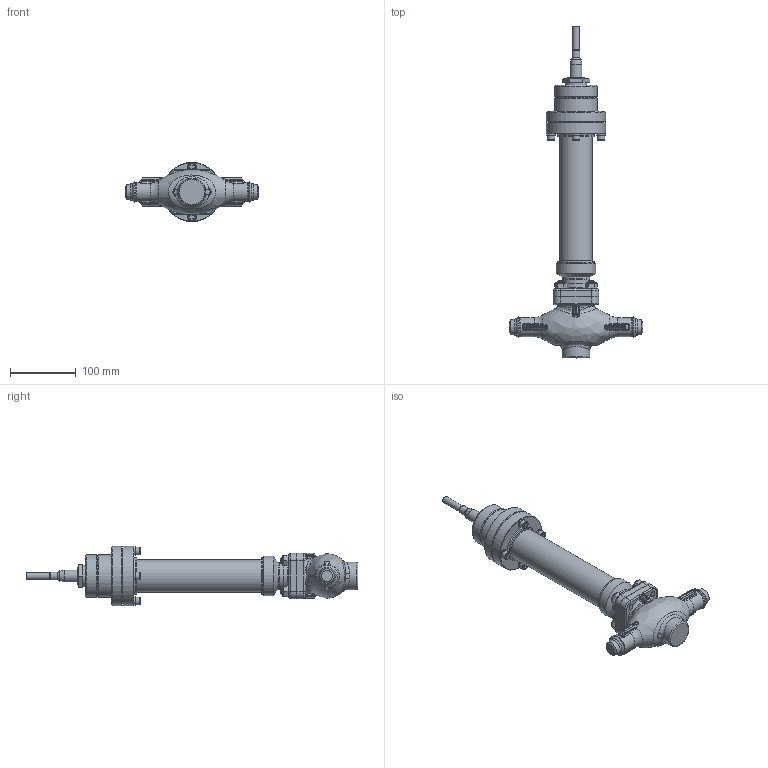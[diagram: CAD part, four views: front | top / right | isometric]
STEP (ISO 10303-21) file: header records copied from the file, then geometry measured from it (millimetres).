
FILE_DESCRIPTION(/* description */ (''),/* implementation_level */ '2;1');
FILE_NAME(/* name */ 'CV3xx_NPS_1_2_privarovaci_vlnovec.stp',/* time_stamp */ '2015-08-11T10:12:48+02:00',/* author */ (''),/* organization */ (''),/* preprocessor_version */ 'ST-DEVELOPER v15',/* originating_system */ 'SIEMENS PLM Software NX 8.5',/* authorisation */ '');
FILE_SCHEMA (('AP203_CONFIGURATION_CONTROLLED_3D_DESIGN_OF_MECHANICAL_PARTS_AND_ASSEMBLIES_MIM_LF { 1 0 10303 403 2 1 2}'));
Length unit declared in the file: millimetre
Products named in the file (1): adam1354300Culau
Bounding box: 203 x 505 x 90 mm (x, y, z)
Volume: 1332507.6 mm3; surface area: 141844.7 mm2
Topology: 1 solids, 1 shells, 600 faces, 1406 edges, 822 vertices
Faces by surface type: plane 175, cylinder 164, cone 96, bspline 94, torus 47, sphere 24
Full cylindrical faces by diameter (mm): 7 x4, 7.76 x4, 8.344 x4, 9 x4, 10 x9, 11 x4, 11.64 x4, 12 x1, 16 x8, 18 x1, 27 x1, 29 x2, 33 x1, 41 x1, 42 x3, 48 x1, 50 x1, 50.3 x2, 55 x2, 58 x1, 60 x1, 61.6 x1, 64 x1, 65 x1, 90 x2
Entity records: 18343 total; most frequent: CARTESIAN_POINT 6176, DIRECTION 2475, ORIENTED_EDGE 2386, EDGE_CURVE 1193, AXIS2_PLACEMENT_3D 1075, EDGE_LOOP 783, VERTEX_POINT 752, ADVANCED_FACE 600
